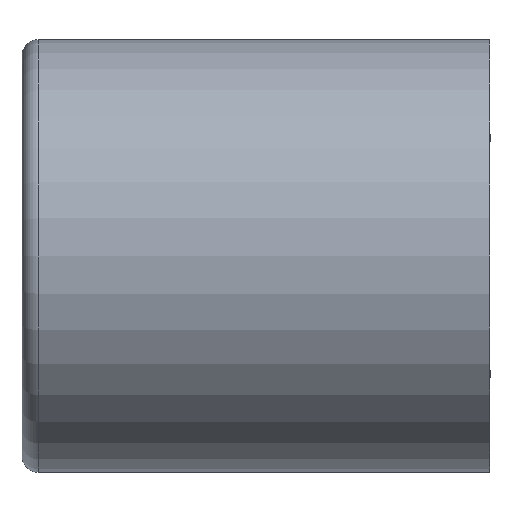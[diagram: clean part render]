
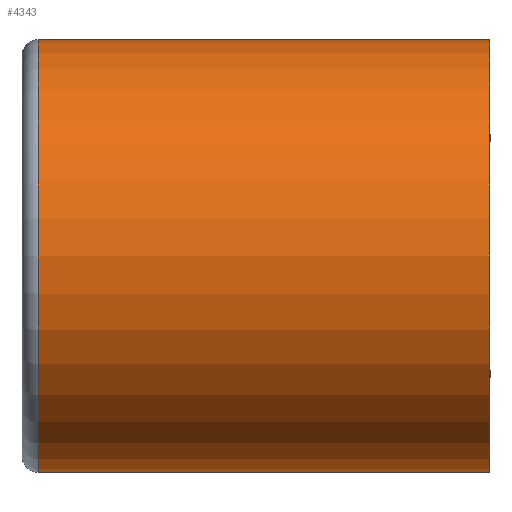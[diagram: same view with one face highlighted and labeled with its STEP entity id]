
A CAD part, front view. The second image highlights one B-rep face of the part: STEP entity #4343.
In plain terms, the highlighted cylindrical face has radius 18.5 mm (diameter 37 mm), a partial arc.
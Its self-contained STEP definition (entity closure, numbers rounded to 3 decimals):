
#260 = VERTEX_POINT ( 'NONE', #3567 ) ;
#399 = CARTESIAN_POINT ( 'NONE',  ( 0., 0., 18.5 ) ) ;
#471 = VERTEX_POINT ( 'NONE', #399 ) ;
#618 = ORIENTED_EDGE ( 'NONE', *, *, #2373, .T. ) ;
#645 = CIRCLE ( 'NONE', #5028, 18.5 ) ;
#672 = LINE ( 'NONE', #3045, #4452 ) ;
#769 = AXIS2_PLACEMENT_3D ( 'NONE', #2682, #5038, #2285 ) ;
#851 = VERTEX_POINT ( 'NONE', #3378 ) ;
#862 = VERTEX_POINT ( 'NONE', #3318 ) ;
#891 = EDGE_CURVE ( 'NONE', #851, #260, #672, .T. ) ;
#1755 = EDGE_LOOP ( 'NONE', ( #3640, #5227, #618, #3341 ) ) ;
#1757 = DIRECTION ( 'NONE',  ( -1., 0., 0. ) ) ;
#2280 = CARTESIAN_POINT ( 'NONE',  ( -38.6, 0., 0. ) ) ;
#2285 = DIRECTION ( 'NONE',  ( 0., 0., 1. ) ) ;
#2373 = EDGE_CURVE ( 'NONE', #471, #862, #4056, .T. ) ;
#2476 = CIRCLE ( 'NONE', #3951, 18.5 ) ;
#2482 = EDGE_CURVE ( 'NONE', #851, #471, #645, .T. ) ;
#2674 = CYLINDRICAL_SURFACE ( 'NONE', #769, 18.5 ) ;
#2682 = CARTESIAN_POINT ( 'NONE',  ( -40., 0., 0. ) ) ;
#2692 = DIRECTION ( 'NONE',  ( 0., 0., -1. ) ) ;
#2978 = EDGE_CURVE ( 'NONE', #862, #260, #2476, .T. ) ;
#3012 = VECTOR ( 'NONE', #1757, 1000. ) ;
#3019 = DIRECTION ( 'NONE',  ( -1., 0., 0. ) ) ;
#3045 = CARTESIAN_POINT ( 'NONE',  ( -40., 0., -18.5 ) ) ;
#3190 = FACE_OUTER_BOUND ( 'NONE', #1755, .T. ) ;
#3233 = DIRECTION ( 'NONE',  ( 0., 0., 1. ) ) ;
#3296 = DIRECTION ( 'NONE',  ( -1., 0., 0. ) ) ;
#3318 = CARTESIAN_POINT ( 'NONE',  ( -38.6, 0., 18.5 ) ) ;
#3341 = ORIENTED_EDGE ( 'NONE', *, *, #2978, .T. ) ;
#3378 = CARTESIAN_POINT ( 'NONE',  ( 0., 0., -18.5 ) ) ;
#3567 = CARTESIAN_POINT ( 'NONE',  ( -38.6, 0., -18.5 ) ) ;
#3640 = ORIENTED_EDGE ( 'NONE', *, *, #891, .F. ) ;
#3951 = AXIS2_PLACEMENT_3D ( 'NONE', #2280, #5053, #2692 ) ;
#4056 = LINE ( 'NONE', #4596, #3012 ) ;
#4343 = ADVANCED_FACE ( 'NONE', ( #3190 ), #2674, .T. ) ;
#4410 = CARTESIAN_POINT ( 'NONE',  ( 0., 0., 0. ) ) ;
#4452 = VECTOR ( 'NONE', #3019, 1000. ) ;
#4596 = CARTESIAN_POINT ( 'NONE',  ( -40., 0., 18.5 ) ) ;
#5028 = AXIS2_PLACEMENT_3D ( 'NONE', #4410, #3296, #3233 ) ;
#5038 = DIRECTION ( 'NONE',  ( -1., 0., 0. ) ) ;
#5053 = DIRECTION ( 'NONE',  ( 1., 0., 0. ) ) ;
#5227 = ORIENTED_EDGE ( 'NONE', *, *, #2482, .T. ) ;
